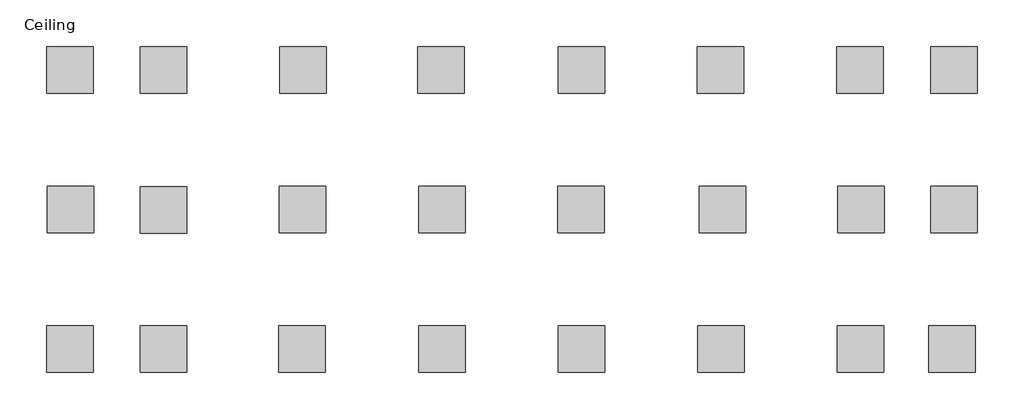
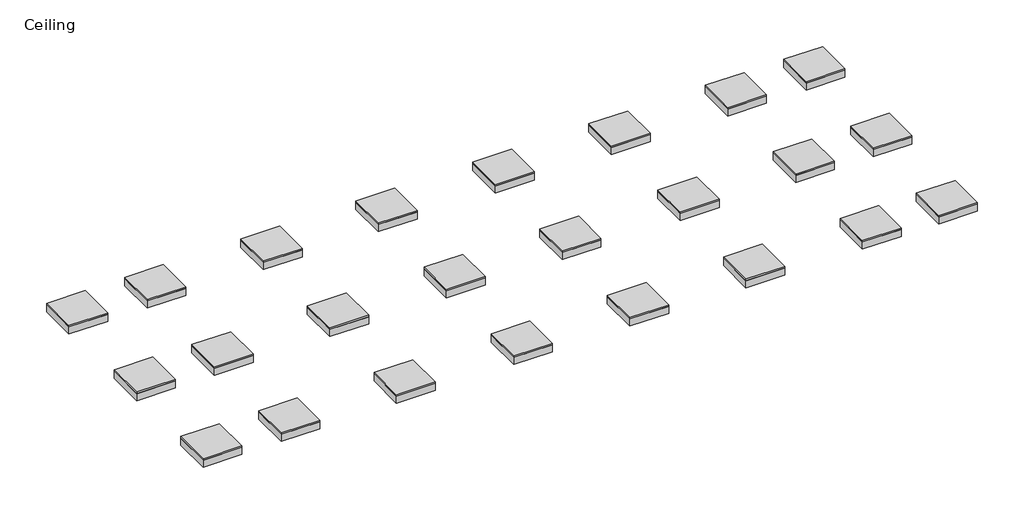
# One storey: 24 light fixtures.
"""IFC4 building model written with IfcOpenShell, lengths in millimetres."""

from ifc_helpers import new_model, si_unit, origin, place, context, project, spatial, transform, mapped, element, save
from components import lighting_fixtures_troffer_parabolic_square_600x600mm_2_lamps_e1dca80e

model = new_model("IFC4")

# Units and contexts
model_context = context("Model", 3, world=origin())
ifc_project = project(units=[si_unit("LENGTHUNIT", "METRE", prefix="MILLI")], contexts=[model_context])

# Site, building, storey
site = spatial("IfcSite", under=ifc_project)
building = spatial("IfcBuilding", under=site)
storey = spatial("IfcBuildingStorey", under=building, Name="Ceiling", Elevation=3400.0)

# Light fixtures
placement = place(None, origin())
lighting_fixtures_troffer_parabolic_square_600x600mm_2_lamps_shape = lighting_fixtures_troffer_parabolic_square_600x600mm_2_lamps_e1dca80e(model_context)
element("IfcLightFixture", 1, ObjectType="Lighting_Fixtures_Troffer_Parabolic_Square : 600x600mm-2_Lamps", at=placement, inside=storey, context=model_context, shape_type="MappedRepresentation", body=[
    mapped(lighting_fixtures_troffer_parabolic_square_600x600mm_2_lamps_shape, transform((-2215.9035861, 4452.6512568, 961.6), x_axis=(1.0, 0.0, 0.0), y_axis=(0.0, 1.0, 0.0), z_axis=(0.0, 0.0, 1.0))),
])
element("IfcLightFixture", 2, ObjectType="Lighting_Fixtures_Troffer_Parabolic_Square : 600x600mm-2_Lamps", at=placement, inside=storey, context=model_context, shape_type="MappedRepresentation", body=[
    mapped(lighting_fixtures_troffer_parabolic_square_600x600mm_2_lamps_shape, transform((-1005.5242287, 4456.1293584, 961.6), x_axis=(1.0, 0.0, 0.0), y_axis=(0.0, 1.0, 0.0), z_axis=(0.0, 0.0, 1.0))),
])
element("IfcLightFixture", 3, ObjectType="Lighting_Fixtures_Troffer_Parabolic_Square : 600x600mm-2_Lamps", at=placement, inside=storey, context=model_context, shape_type="MappedRepresentation", body=[
    mapped(lighting_fixtures_troffer_parabolic_square_600x600mm_2_lamps_shape, transform((-1009.0023303, 2644.0384239, 961.6), x_axis=(1.0, 0.0, 0.0), y_axis=(0.0, 1.0, 0.0), z_axis=(0.0, 0.0, 1.0))),
])
element("IfcLightFixture", 4, ObjectType="Lighting_Fixtures_Troffer_Parabolic_Square : 600x600mm-2_Lamps", at=placement, inside=storey, context=model_context, shape_type="MappedRepresentation", body=[
    mapped(lighting_fixtures_troffer_parabolic_square_600x600mm_2_lamps_shape, transform((-2208.9473829, 2650.9946271, 961.6), x_axis=(1.0, 0.0, 0.0), y_axis=(0.0, 1.0, 0.0), z_axis=(0.0, 0.0, 1.0))),
])
element("IfcLightFixture", 5, ObjectType="Lighting_Fixtures_Troffer_Parabolic_Square : 600x600mm-2_Lamps", at=placement, inside=storey, context=model_context, shape_type="MappedRepresentation", body=[
    mapped(lighting_fixtures_troffer_parabolic_square_600x600mm_2_lamps_shape, transform((-2216.7746615, 854.6659321, 961.6), x_axis=(1.0, 0.0, 0.0), y_axis=(0.0, 1.0, 0.0), z_axis=(0.0, 0.0, 1.0))),
])
element("IfcLightFixture", 6, ObjectType="Lighting_Fixtures_Troffer_Parabolic_Square : 600x600mm-2_Lamps", at=placement, inside=storey, context=model_context, shape_type="MappedRepresentation", body=[
    mapped(lighting_fixtures_troffer_parabolic_square_600x600mm_2_lamps_shape, transform((-1010.0246275, 854.6659321, 961.6), x_axis=(1.0, 0.0, 0.0), y_axis=(0.0, 1.0, 0.0), z_axis=(0.0, 0.0, 1.0))),
])
element("IfcLightFixture", 7, ObjectType="Lighting_Fixtures_Troffer_Parabolic_Square : 600x600mm-2_Lamps", at=placement, inside=storey, context=model_context, shape_type="MappedRepresentation", body=[
    mapped(lighting_fixtures_troffer_parabolic_square_600x600mm_2_lamps_shape, transform((792.5998217, 4454.6659321, 961.6), x_axis=(1.0, 0.0, 0.0), y_axis=(0.0, 1.0, 0.0), z_axis=(0.0, 0.0, 1.0))),
])
element("IfcLightFixture", 8, ObjectType="Lighting_Fixtures_Troffer_Parabolic_Square : 600x600mm-2_Lamps", at=placement, inside=storey, context=model_context, shape_type="MappedRepresentation", body=[
    mapped(lighting_fixtures_troffer_parabolic_square_600x600mm_2_lamps_shape, transform((2572.5183164, 4454.6659321, 961.6), x_axis=(1.0, 0.0, 0.0), y_axis=(0.0, 1.0, 0.0), z_axis=(0.0, 0.0, 1.0))),
])
element("IfcLightFixture", 9, ObjectType="Lighting_Fixtures_Troffer_Parabolic_Square : 600x600mm-2_Lamps", at=placement, inside=storey, context=model_context, shape_type="MappedRepresentation", body=[
    mapped(lighting_fixtures_troffer_parabolic_square_600x600mm_2_lamps_shape, transform((4384.4353458, 4454.6659321, 961.6), x_axis=(1.0, 0.0, 0.0), y_axis=(0.0, 1.0, 0.0), z_axis=(0.0, 0.0, 1.0))),
])
element("IfcLightFixture", 10, ObjectType="Lighting_Fixtures_Troffer_Parabolic_Square : 600x600mm-2_Lamps", at=placement, inside=storey, context=model_context, shape_type="MappedRepresentation", body=[
    mapped(lighting_fixtures_troffer_parabolic_square_600x600mm_2_lamps_shape, transform((4380.435529, 2654.6659321, 961.6), x_axis=(1.0, 0.0, 0.0), y_axis=(0.0, 1.0, 0.0), z_axis=(0.0, 0.0, 1.0))),
])
element("IfcLightFixture", 11, ObjectType="Lighting_Fixtures_Troffer_Parabolic_Square : 600x600mm-2_Lamps", at=placement, inside=storey, context=model_context, shape_type="MappedRepresentation", body=[
    mapped(lighting_fixtures_troffer_parabolic_square_600x600mm_2_lamps_shape, transform((2588.5175838, 2654.6659321, 961.6), x_axis=(1.0, 0.0, 0.0), y_axis=(0.0, 1.0, 0.0), z_axis=(0.0, 0.0, 1.0))),
])
element("IfcLightFixture", 12, ObjectType="Lighting_Fixtures_Troffer_Parabolic_Square : 600x600mm-2_Lamps", at=placement, inside=storey, context=model_context, shape_type="MappedRepresentation", body=[
    mapped(lighting_fixtures_troffer_parabolic_square_600x600mm_2_lamps_shape, transform((784.600188, 2654.6659321, 961.6), x_axis=(1.0, 0.0, 0.0), y_axis=(0.0, 1.0, 0.0), z_axis=(0.0, 0.0, 1.0))),
])
element("IfcLightFixture", 13, ObjectType="Lighting_Fixtures_Troffer_Parabolic_Square : 600x600mm-2_Lamps", at=placement, inside=storey, context=model_context, shape_type="MappedRepresentation", body=[
    mapped(lighting_fixtures_troffer_parabolic_square_600x600mm_2_lamps_shape, transform((776.6005544, 854.6659321, 961.6), x_axis=(1.0, 0.0, 0.0), y_axis=(0.0, 1.0, 0.0), z_axis=(0.0, 0.0, 1.0))),
])
element("IfcLightFixture", 14, ObjectType="Lighting_Fixtures_Troffer_Parabolic_Square : 600x600mm-2_Lamps", at=placement, inside=storey, context=model_context, shape_type="MappedRepresentation", body=[
    mapped(lighting_fixtures_troffer_parabolic_square_600x600mm_2_lamps_shape, transform((2588.5175838, 854.6659321, 961.6), x_axis=(1.0, 0.0, 0.0), y_axis=(0.0, 1.0, 0.0), z_axis=(0.0, 0.0, 1.0))),
])
element("IfcLightFixture", 15, ObjectType="Lighting_Fixtures_Troffer_Parabolic_Square : 600x600mm-2_Lamps", at=placement, inside=storey, context=model_context, shape_type="MappedRepresentation", body=[
    mapped(lighting_fixtures_troffer_parabolic_square_600x600mm_2_lamps_shape, transform((4388.4351627, 854.6659321, 961.6), x_axis=(1.0, 0.0, 0.0), y_axis=(0.0, 1.0, 0.0), z_axis=(0.0, 0.0, 1.0))),
])
element("IfcLightFixture", 16, ObjectType="Lighting_Fixtures_Troffer_Parabolic_Square : 600x600mm-2_Lamps", at=placement, inside=storey, context=model_context, shape_type="MappedRepresentation", body=[
    mapped(lighting_fixtures_troffer_parabolic_square_600x600mm_2_lamps_shape, transform((7980.2706867, 4454.6659321, 961.6), x_axis=(1.0, 0.0, 0.0), y_axis=(0.0, 1.0, 0.0), z_axis=(0.0, 0.0, 1.0))),
])
element("IfcLightFixture", 17, ObjectType="Lighting_Fixtures_Troffer_Parabolic_Square : 600x600mm-2_Lamps", at=placement, inside=storey, context=model_context, shape_type="MappedRepresentation", body=[
    mapped(lighting_fixtures_troffer_parabolic_square_600x600mm_2_lamps_shape, transform((9196.2150067, 4454.6659321, 961.6), x_axis=(1.0, 0.0, 0.0), y_axis=(0.0, 1.0, 0.0), z_axis=(0.0, 0.0, 1.0))),
])
element("IfcLightFixture", 18, ObjectType="Lighting_Fixtures_Troffer_Parabolic_Square : 600x600mm-2_Lamps", at=placement, inside=storey, context=model_context, shape_type="MappedRepresentation", body=[
    mapped(lighting_fixtures_troffer_parabolic_square_600x600mm_2_lamps_shape, transform((9192.2151899, 2654.6659321, 961.6), x_axis=(1.0, 0.0, 0.0), y_axis=(0.0, 1.0, 0.0), z_axis=(0.0, 0.0, 1.0))),
])
element("IfcLightFixture", 19, ObjectType="Lighting_Fixtures_Troffer_Parabolic_Square : 600x600mm-2_Lamps", at=placement, inside=storey, context=model_context, shape_type="MappedRepresentation", body=[
    mapped(lighting_fixtures_troffer_parabolic_square_600x600mm_2_lamps_shape, transform((7992.2701373, 2654.6659321, 961.6), x_axis=(1.0, 0.0, 0.0), y_axis=(0.0, 1.0, 0.0), z_axis=(0.0, 0.0, 1.0))),
])
element("IfcLightFixture", 20, ObjectType="Lighting_Fixtures_Troffer_Parabolic_Square : 600x600mm-2_Lamps", at=placement, inside=storey, context=model_context, shape_type="MappedRepresentation", body=[
    mapped(lighting_fixtures_troffer_parabolic_square_600x600mm_2_lamps_shape, transform((7988.2703204, 854.6659321, 961.6), x_axis=(1.0, 0.0, 0.0), y_axis=(0.0, 1.0, 0.0), z_axis=(0.0, 0.0, 1.0))),
])
element("IfcLightFixture", 21, ObjectType="Lighting_Fixtures_Troffer_Parabolic_Square : 600x600mm-2_Lamps", at=placement, inside=storey, context=model_context, shape_type="MappedRepresentation", body=[
    mapped(lighting_fixtures_troffer_parabolic_square_600x600mm_2_lamps_shape, transform((9168.2162888, 854.6659321, 961.6), x_axis=(1.0, 0.0, 0.0), y_axis=(0.0, 1.0, 0.0), z_axis=(0.0, 0.0, 1.0))),
])
element("IfcLightFixture", 22, ObjectType="Lighting_Fixtures_Troffer_Parabolic_Square : 600x600mm-2_Lamps", at=placement, inside=storey, context=model_context, shape_type="MappedRepresentation", body=[
    mapped(lighting_fixtures_troffer_parabolic_square_600x600mm_2_lamps_shape, transform((6180.3531079, 4454.6659321, 961.6), x_axis=(1.0, 0.0, 0.0), y_axis=(0.0, 1.0, 0.0), z_axis=(0.0, 0.0, 1.0))),
])
element("IfcLightFixture", 23, ObjectType="Lighting_Fixtures_Troffer_Parabolic_Square : 600x600mm-2_Lamps", at=placement, inside=storey, context=model_context, shape_type="MappedRepresentation", body=[
    mapped(lighting_fixtures_troffer_parabolic_square_600x600mm_2_lamps_shape, transform((6208.3518258, 2654.6659321, 961.6), x_axis=(1.0, 0.0, 0.0), y_axis=(0.0, 1.0, 0.0), z_axis=(0.0, 0.0, 1.0))),
])
element("IfcLightFixture", 24, ObjectType="Lighting_Fixtures_Troffer_Parabolic_Square : 600x600mm-2_Lamps", at=placement, inside=storey, context=model_context, shape_type="MappedRepresentation", body=[
    mapped(lighting_fixtures_troffer_parabolic_square_600x600mm_2_lamps_shape, transform((6184.3529247, 854.6659321, 961.6), x_axis=(1.0, 0.0, 0.0), y_axis=(0.0, 1.0, 0.0), z_axis=(0.0, 0.0, 1.0))),
])

save(model, "model.ifc")
